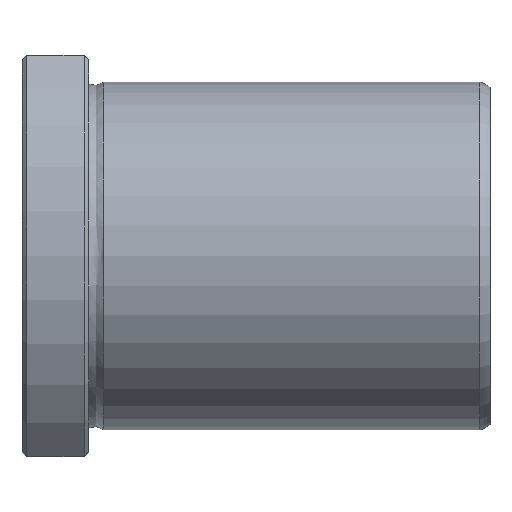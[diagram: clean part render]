
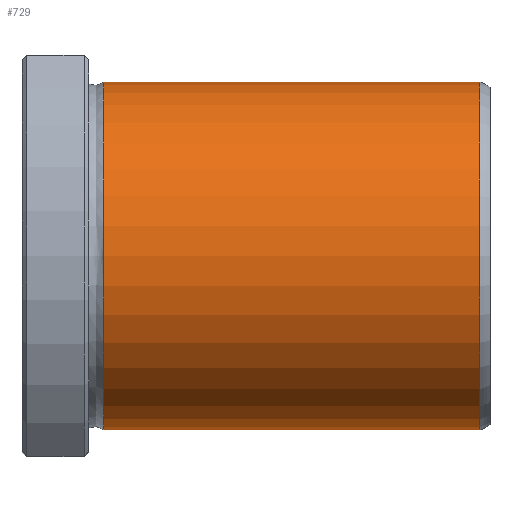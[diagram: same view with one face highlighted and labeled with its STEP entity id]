
A CAD part, top view. The second image highlights one B-rep face of the part: STEP entity #729.
In plain terms, the highlighted cylindrical face has radius 26 mm (diameter 52 mm), a full revolution.
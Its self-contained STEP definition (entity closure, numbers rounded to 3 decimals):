
#695=CARTESIAN_POINT('',(68.502,0.0,26.));
#696=VERTEX_POINT('',#695);
#697=CARTESIAN_POINT('',(68.502,0.0,0.0));
#698=DIRECTION('',(-1.0,0.0,0.0));
#699=DIRECTION('',(0.0,0.0,1.0));
#700=AXIS2_PLACEMENT_3D('',#697,#698,#699);
#701=CIRCLE('',#700,26.);
#702=EDGE_CURVE('',#696,#696,#701,.T.);
#710=CARTESIAN_POINT('',(40.362,0.0,0.0));
#711=DIRECTION('',(-1.0,0.0,0.0));
#712=DIRECTION('',(0.0,0.0,1.0));
#713=AXIS2_PLACEMENT_3D('',#710,#711,#712);
#714=CYLINDRICAL_SURFACE('',#713,26.);
#715=CARTESIAN_POINT('',(12.223,0.0,26.));
#716=VERTEX_POINT('',#715);
#717=CARTESIAN_POINT('',(12.223,0.0,0.0));
#718=DIRECTION('',(-1.0,0.0,0.0));
#719=DIRECTION('',(0.0,0.0,1.0));
#720=AXIS2_PLACEMENT_3D('',#717,#718,#719);
#721=CIRCLE('',#720,26.);
#722=EDGE_CURVE('',#716,#716,#721,.T.);
#723=ORIENTED_EDGE('',*,*,#722,.F.);
#724=EDGE_LOOP('',(#723));
#725=FACE_OUTER_BOUND('',#724,.T.);
#726=ORIENTED_EDGE('',*,*,#702,.T.);
#727=EDGE_LOOP('',(#726));
#728=FACE_BOUND('',#727,.T.);
#729=ADVANCED_FACE('',(#725,#728),#714,.T.);
